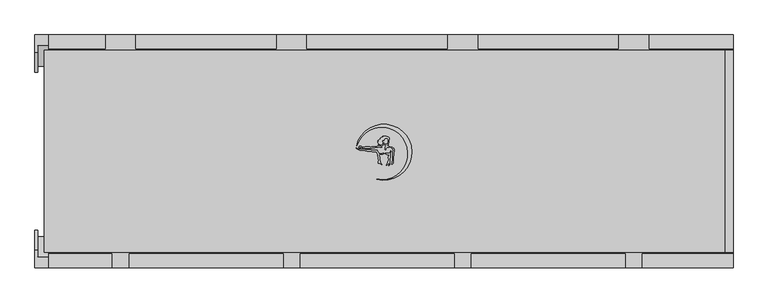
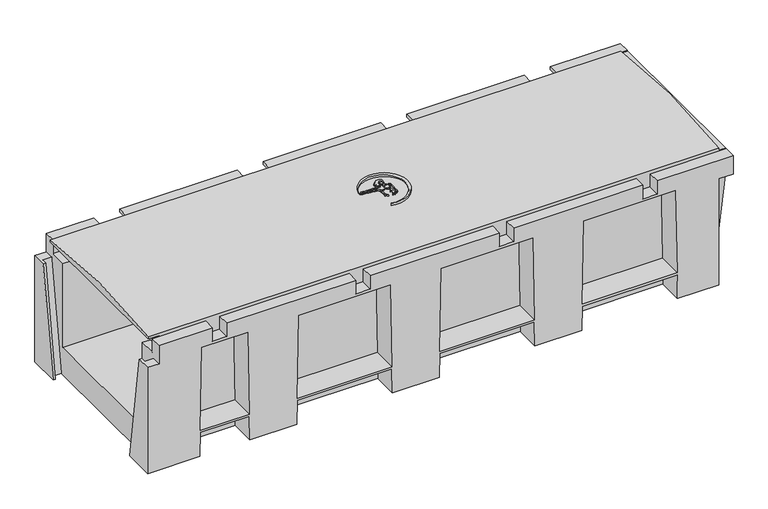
"""IFC4 building model written with IfcOpenShell, lengths in millimetres: cable carrier fitting geometry, Evotray with cover : Evotray type 2."""

from ifc_helpers import new_model, si_unit, point, frame, frame_2d, origin, place, context, project, spatial, polyline, circle_curve, trimmed, segment, composite_curve, outline, extrude, source, transform, mapped, element, save
from ifc_brep_helpers import plane_surface, cylinder_surface, revolved_surface, advanced_brep


def cable_carrier_fitting_28983398(model_context):
    return source(origin(), model_context, "Body", "SolidModel", [
        extrude(outline(composite_curve([segment(polyline([(6.886285, 7.4637328), (8.3119761, 6.6406097), (7.6030447, 6.231308), (5.0381149, 6.231308), (2.5786216, 3.7718147), (2.5786216, 2.1881467), (1.5211076, 1.9047867), (1.1897405, 3.1414657), (1.5119619, 4.3440123), (1.5119619, 6.5708274), (2.9785026, 8.0373681), (2.5786216, 8.7299822), (1.5119619, 9.3458185), (0.65369, 9.841342), (-0.3394336, 10.8344656), (-0.3394336, 12.0845225), (0.4483607, 11.6296893), (1.5119619, 10.566088), (2.5786216, 9.9502518), (4.8913863, 9.9502518), (5.5232849, 10.5821504), (5.5232849, 12.1905551), (5.9291419, 12.89352), (6.1687119, 13.7876074), (6.1687119, 17.8830423), (5.5232849, 18.5284693), (1.5119619, 18.8794146), (0.7637978, 18.4474619), (0.3319493, 17.6994783), (0.1095558, 16.8694948), (-0.1631605, 15.3228433), (-0.7191823, 15.878865), (-1.2848381, 16.4445209), (-2.245373, 16.4445209), (-2.7198124, 15.6227677), (-2.7198124, 14.7978623), (-2.3177653, 14.1014963), (-1.5900706, 13.3738016), (-1.9867099, 11.8935234), (-2.3242099, 10.6339564), (-2.0214025, 8.91665), (-2.8221956, 8.7754486), (-4.5526409, 9.23912), (-5.7993501, 9.8204701), (-6.5526073, 10.1717197), (-8.1520559, 9.8896938), (-7.6844974, 10.6995287), (-6.0276764, 11.3025623)]), True, "CONTINUOUS"), segment(trimmed(circle_curve(frame_2d((-6.593804, 11.0306229)), 0.6280537), [point((-6.0276764, 11.3025623))], [point((-6.7493862, 11.639101))], True, "CARTESIAN"), True, "CONTINUOUS"), segment(polyline([(-6.7493862, 11.639101), (-8.6964013, 11.639101), (-8.1382232, 12.1972792), (-7.2874434, 12.5069377), (-6.4690039, 12.8048253)]), True, "CONTINUOUS"), segment(trimmed(circle_curve(frame_2d((-7.2073288, 12.8048253)), 0.7383249), [point((-6.4690039, 12.8048253))], [point((-7.2073288, 13.5431502))], True, "CARTESIAN"), True, "CONTINUOUS"), segment(polyline([(-7.2073288, 13.5431502), (-8.9150764, 13.5431502), (-9.306598, 14.2212855), (-7.4880059, 14.5419523), (-6.1916679, 15.0137808), (-6.8124206, 15.6345335), (-8.7756401, 15.6345335), (-8.2230577, 16.1871159), (-7.193225, 16.7816901), (-6.5185006, 17.4564145), (-5.7956833, 17.8737332), (-4.8206713, 18.4366567)]), True, "CONTINUOUS"), segment(trimmed(circle_curve(frame_2d((-5.0316567, 18.8020941)), 0.4219708), [point((-4.8206713, 18.4366567))], [point((-5.2426421, 19.1675315))], True, "CARTESIAN"), True, "CONTINUOUS"), segment(polyline([(-5.2426421, 19.1675315), (-4.6252454, 19.7849282), (-3.3225755, 20.2590613), (-2.3275189, 20.8335574), (-1.1959823, 21.0330779), (-1.5498081, 22.0052062), (3.4501919, 22.0052062), (4.4643658, 21.5322892), (5.5862207, 21.2316891), (6.6006668, 20.6459983), (7.7093433, 19.5373219), (7.7093433, 16.9713066), (7.2204261, 16.1244773), (7.2204261, 13.3924413), (6.7313912, 12.3437025), (6.3245893, 11.639101), (6.3245893, 9.7903367), (5.5232849, 9.3277034), (4.6900065, 9.1807739)]), True, "CONTINUOUS"), segment(trimmed(circle_curve(frame_2d((5.742958, 8.8986364)), 1.0900956), [point((4.6900065, 9.1807739))], [point((5.4608205, 7.8456849))], True, "CARTESIAN"), True, "CONTINUOUS"), segment(polyline([(5.4608205, 7.8456849), (6.886285, 7.4637328)]), True, "CONTINUOUS")], self_intersect=False)), frame((0.0, 0.0, 235.0), z_axis=(0.0, 0.0, 1.0), x_axis=(1.0, 0.0, 0.0)), (0.0, 0.0, 1.0), 11.0),
        extrude(outline(polyline([(11.4429943, 4.6087301), (9.5203503, 5.7187691), (10.7095904, 6.0374251), (12.0844458, 5.5370186), (14.2105949, 4.3094858), (14.6222444, 2.7731892), (14.6222444, 0.0), (14.2038635, -2.372756), (13.8777263, -11.712102), (13.8777263, -14.5669989), (13.3180784, -17.7409202), (12.1590543, -18.8999443), (11.2615657, -18.8999443), (11.9364399, -17.0457427), (12.2453954, -15.2935685), (12.7598527, -12.3759364), (12.7598527, -1.1364717), (13.2014873, 1.3681627), (12.6590105, 3.3927139), (11.4429943, 4.6087301)])), frame((0.0, 0.0, 235.0), z_axis=(0.0, 0.0, 1.0), x_axis=(1.0, 0.0, 0.0)), (0.0, 0.0, 1.0), 11.0),
        extrude(outline(composite_curve([segment(polyline([(4.0147453, -2.9992906), (5.9969468, -2.9992906), (7.4652111, -2.740396), (8.7704931, -1.435114), (9.950602, 1.0956376), (10.431554, -0.2257671), (9.8088462, -1.5611682), (9.1382387, -2.9992906), (9.1382387, -8.9574865), (8.7098596, -11.3869452), (8.7098596, -19.8680871), (7.2612009, -21.3167458), (6.6884637, -20.7440086), (7.3671837, -19.0016384), (7.6253291, -17.5376234)]), True, "CONTINUOUS"), segment(trimmed(circle_curve(frame_2d((7.210681, -17.5376234)), 0.414648), [point((7.6253291, -17.5376234))], [point((6.796033, -17.5376234))], True, "CARTESIAN"), True, "CONTINUOUS"), segment(polyline([(6.796033, -17.5376234), (6.0303442, -18.3033121), (4.7634977, -19.813081), (4.1079887, -20.4685901), (3.3156675, -20.0991246), (5.4798874, -16.8905367), (5.785797, -15.1556368), (6.6278549, -13.3498378), (6.8850624, -11.8911416), (6.0965537, -10.5254044), (6.0965537, -7.7588572), (7.4197021, -5.8893005)]), True, "CONTINUOUS"), segment(trimmed(circle_curve(frame_2d((7.0825972, -5.6507199)), 0.4129897), [point((7.4197021, -5.8893005))], [point((6.8440166, -5.3136149))], True, "CARTESIAN"), True, "CONTINUOUS"), segment(polyline([(6.8440166, -5.3136149), (4.8402016, -4.9602882), (3.396305, -4.2869882), (1.5763044, -3.438308), (1.5763044, -2.5693277), (4.0147453, -2.9992906)]), True, "CONTINUOUS")], self_intersect=False)), frame((0.0, 0.0, 235.0), z_axis=(0.0, 0.0, 1.0), x_axis=(1.0, 0.0, 0.0)), (0.0, 0.0, 1.0), 11.0),
        extrude(outline(composite_curve([segment(polyline([(-38.3968506, 3.809904), (-36.6611767, 3.000546), (-32.4747028, 3.000546), (-31.4039817, 3.2874448), (-30.0774441, 3.2874448), (-28.3563353, 3.000546), (-26.3500132, 2.4629536), (-25.1968251, 2.1539578), (-19.5049184, 2.1539578), (-16.8884225, 1.7178031), (-15.5608599, 1.3620838), (-9.9466176, 1.3620838)]), True, "CONTINUOUS"), segment(trimmed(circle_curve(frame_2d((-1.0930514, 4.2676903)), 9.3181642), [point((-9.9466176, 1.3620838))], [point((-6.5923499, -3.2546697))], True, "CARTESIAN"), True, "CONTINUOUS"), segment(polyline([(-6.5923499, -3.2546697), (-3.540565, -3.2546697), (-1.5059865, -3.0766672), (-0.3669825, -2.5455409), (-0.6245024, -3.5066183), (-1.5685967, -4.0516914), (-2.5272836, -4.4006249), (-5.7619887, -4.2876665), (-6.9506832, -4.720316), (-7.3596776, -5.5974072), (-7.284597, -6.4555824), (-6.8057129, -7.2850341), (-6.0851074, -8.0056396), (-6.0851074, -9.7618521), (-6.4504076, -10.7655063), (-6.306141, -12.4144812), (-5.8010487, -14.2995114), (-5.6529296, -15.9925206), (-3.2815945, -18.7204295), (-3.4902715, -19.9038953), (-6.0851074, -17.3090594), (-7.047939, -17.5670493), (-8.4511152, -17.3196315), (-8.1755548, -16.5625356), (-8.1755548, -14.2884801), (-7.999951, -13.2925813), (-8.1755548, -11.2854205), (-8.5512172, -10.2532964), (-8.5512172, -8.4281135), (-8.9975529, -7.4709435), (-8.9975529, -5.093194), (-9.2459932, -4.1660024), (-9.6979635, -3.3831668), (-10.1466753, -2.6059753), (-10.7611176, -1.9915329), (-11.1949689, -1.0611358), (-14.7959071, -0.9353883), (-17.1400591, -0.5446317), (-19.1726524, 0.0), (-22.514272, 0.3512184), (-24.5938851, 0.3512184), (-25.9361197, 0.7108691), (-27.4597147, 1.1191151), (-28.802968, 1.7454844), (-29.7973567, 1.7454844), (-32.4487971, 1.7454844), (-33.5610412, 1.4474595), (-35.4243232, 1.6432983), (-36.913398, 1.8915184), (-38.5867056, 2.6717946), (-39.5626319, 3.6477209), (-40.201715, 4.286804), (-40.201715, 5.0736837), (-38.3968506, 3.809904)]), True, "CONTINUOUS")], self_intersect=False)), frame((0.0, 0.0, 235.0), z_axis=(0.0, 0.0, 1.0), x_axis=(1.0, 0.0, 0.0)), (0.0, 0.0, 1.0), 11.0),
        extrude(outline(composite_curve([segment(polyline([(-35.8946179, 5.3538761), (-34.8713036, 4.7630653), (-36.5989641, 5.2827362), (-36.9291106, 6.2002999), (-36.0907862, 7.0386243), (-33.2179676, 7.0386243), (-32.2335306, 6.640886), (-31.1430419, 6.2002999), (-30.3448483, 5.7394627), (-29.0846182, 5.7394627), (-28.2635931, 6.0348738), (-27.3783409, 6.5459745), (-20.9646359, 6.5459745), (-20.1090613, 6.2002999), (-19.0386593, 6.2002999), (-18.0779391, 6.5459745), (-16.8987824, 6.5459745), (-16.1804433, 6.9607077), (-10.7677881, 6.9607077), (-10.0075074, 7.2342626), (-8.7653494, 7.2342626), (-8.1895809, 7.8100311), (-6.2320175, 7.8100311), (-4.9440164, 7.2896449), (-3.9321, 6.7054147), (-3.1276589, 6.3803994)]), True, "CONTINUOUS"), segment(trimmed(circle_curve(frame_2d((-3.5349913, 6.2158265)), 0.4393221), [point((-3.1276589, 6.3803994))], [point((-3.6995642, 5.8084941))], False, "CARTESIAN"), True, "CONTINUOUS"), segment(polyline([(-3.6995642, 5.8084941), (-4.7152929, 6.2188751), (-6.0269507, 6.2188751), (-7.2973806, 6.4428862), (-8.109405, 6.1507135), (-9.252379, 5.7394627), (-12.5965769, 5.7394627), (-13.3876503, 5.2827362), (-16.9549705, 5.2827362), (-17.8378329, 4.7730154), (-27.8378329, 4.7730154), (-30.448497, 4.5446119), (-34.1370246, 6.0348738), (-36.2877922, 6.0348738), (-35.8946179, 5.3538761)]), True, "CONTINUOUS")], self_intersect=False)), frame((0.0, 0.0, 235.0), z_axis=(0.0, 0.0, 1.0), x_axis=(1.0, 0.0, 0.0)), (0.0, 0.0, 1.0), 11.0),
        extrude(outline(composite_curve([segment(trimmed(circle_curve(frame_2d((-3.3143579, -3.3159585)), 38.3616107), [point((-10.7221947, -40.9555272))], [point((-40.0258932, 7.814017))], True, "CARTESIAN"), True, "CONTINUOUS"), segment(trimmed(circle_curve(frame_2d((-0.1849572, -1.4356248)), 40.900563), [point((-40.0258932, 7.814017))], [point((-10.7221947, -40.9555272))], False, "CARTESIAN"), True, "CONTINUOUS")], self_intersect=False)), frame((0.0, 0.0, 235.0), z_axis=(0.0, 0.0, 1.0), x_axis=(1.0, 0.0, 0.0)), (0.0, 0.0, 1.0), 11.0),
        advanced_brep(
        [(510.0, 147.5, 205.0), (510.0, -147.5, 205.0), (-476.0, -147.5, 205.0), (-476.0, 147.5, 205.0), (-496.0, 147.5, 230.0), (-496.0, -147.5, 230.0), (-496.0, -147.5, 234.0), (-496.0, 147.5, 234.0), (510.0, -147.5, 230.0), (498.0, -147.5, 230.0), (498.0, -147.5, 234.0), (-476.0, -147.5, 230.0), (510.0, 147.5, 230.0), (-476.0, 147.5, 230.0), (498.0, 147.5, 234.0), (498.0, 147.5, 230.0)],
        [
            (0, 1),
            (1, 2),
            (2, 3),
            (3, 0),
            (4, 5),
            (5, 6),
            (6, 7, circle_curve(frame((-496.0, 0.0, -748.995295), z_axis=(-1.0, 0.0, 0.0), x_axis=(0.0, 1.0, 0.0)), 994.0)),
            (7, 4),
            (1, 8),
            (8, 9),
            (9, 10),
            (10, 6),
            (5, 11),
            (11, 2),
            (0, 12),
            (12, 8),
            (3, 13),
            (13, 4),
            (7, 14),
            (14, 15),
            (15, 12),
            (13, 11),
            (15, 9),
            (14, 10, circle_curve(frame((498.0, 0.0, -748.995295), z_axis=(1.0, 0.0, 0.0), x_axis=(0.0, 1.0, 0.0)), 994.0)),
        ],
        [
            plane_surface(frame((-496.0, 147.5, 205.0), z_axis=(0.0, 0.0, -1.0), x_axis=(0.0, 1.0, 0.0))),
            plane_surface(frame((-496.0, 147.5, 246.0), z_axis=(-1.0, 0.0, 0.0), x_axis=(0.0, 0.0, -1.0))),
            plane_surface(frame((-496.0, -147.5, 246.0), z_axis=(0.0, -1.0, 0.0), x_axis=(0.0, 0.0, -1.0))),
            plane_surface(frame((510.0, -147.5, 246.0), z_axis=(1.0, 0.0, 0.0), x_axis=(0.0, 0.0, -1.0))),
            plane_surface(frame((510.0, 147.5, 246.0), z_axis=(0.0, 1.0, 0.0), x_axis=(0.0, 0.0, -1.0))),
            plane_surface(frame((-496.0, 147.5, 230.0), z_axis=(0.0, 0.0, -1.0), x_axis=(-1.0, 0.0, 0.0))),
            plane_surface(frame((-476.0, -147.5, 230.0), z_axis=(-1.0, 0.0, 0.0), x_axis=(0.0, 0.0, -1.0))),
            plane_surface(frame((498.0, 147.5, 230.0), z_axis=(0.0, 0.0, 1.0), x_axis=(0.0, 1.0, 0.0))),
            plane_surface(frame((498.0, 147.5, 246.0), z_axis=(1.0, 0.0, 0.0), x_axis=(0.0, 0.0, -1.0))),
            cylinder_surface(frame((-496.0, 0.0, -748.995295), z_axis=(-1.0, 0.0, 0.0), x_axis=(0.0, 1.0, 0.0)), 994.0),
        ],
        [
            (0, [[1, 2, 3, 4]]),
            (1, [[5, 6, 7, 8]]),
            (2, [[-2, 9, 10, 11, 12, -6, 13, 14]]),
            (3, [[-1, 15, 16, -9]]),
            (4, [[-4, 17, 18, -8, 19, 20, 21, -15]]),
            (5, [[22, -13, -5, -18]]),
            (6, [[-22, -17, -3, -14]]),
            (7, [[23, -10, -16, -21]]),
            (8, [[-23, -20, 24, -11]]),
            (9, [[-7, -12, -24, -19]]),
        ],
    ),
        advanced_brep(
        [(510.0, 150.0, 230.0), (510.0, 170.0, 230.0), (387.5, 170.0, 230.0), (387.5, 150.0, 230.0), (510.0, -170.0, 230.0), (510.0, -150.0, 230.0), (377.5, -150.0, 230.0), (377.5, -170.0, 230.0), (-157.5, 170.0, 230.0), (-362.5, 170.0, 230.0), (-362.5, 150.0, 230.0), (-157.5, 150.0, 230.0), (92.5, 170.0, 230.0), (-112.5, 170.0, 230.0), (-112.5, 150.0, 230.0), (92.5, 150.0, 230.0), (342.5, 170.0, 230.0), (137.5, 170.0, 230.0), (137.5, 150.0, 230.0), (342.5, 150.0, 230.0), (-490.0, 150.0, 230.0), (-407.5, 150.0, 230.0), (-407.5, 170.0, 230.0), (-490.0, 170.0, 230.0), (-490.0, -150.0, 230.0), (-490.0, -170.0, 230.0), (-397.5, -170.0, 230.0), (-397.5, -150.0, 230.0), (-147.5, -150.0, 230.0), (-372.5, -150.0, 230.0), (-372.5, -170.0, 230.0), (-147.5, -170.0, 230.0), (102.5, -150.0, 230.0), (-122.5, -150.0, 230.0), (-122.5, -170.0, 230.0), (102.5, -170.0, 230.0), (352.5, -150.0, 230.0), (127.5, -150.0, 230.0), (127.5, -170.0, 230.0), (352.5, -170.0, 230.0), (-510.0, 115.4, 0.0), (-510.0, 170.0, 0.0), (-381.1, 170.0, 0.0), (-381.1, 126.0, 0.0), (-214.1, 126.0, 0.0), (-214.1, 170.0, 0.0), (-132.8, 170.0, 0.0), (-132.8, 126.0, 0.0), (34.2, 126.0, 0.0), (34.2, 170.0, 0.0), (115.5, 170.0, 0.0), (115.5, 126.0, 0.0), (282.5, 126.0, 0.0), (282.5, 170.0, 0.0), (363.8, 170.0, 0.0), (363.8, 126.0, 0.0), (450.8, 126.0, 0.0), (450.8, 170.0, 0.0), (485.0, 170.0, 0.0), (485.0, -170.0, 0.0), (413.1, -170.0, 0.0), (413.1, -126.0, 0.0), (246.1, -126.0, 0.0), (246.1, -170.0, 0.0), (164.8, -170.0, 0.0), (164.8, -126.0, 0.0), (-2.2, -126.0, 0.0), (-2.2, -170.0, 0.0), (-83.5, -170.0, 0.0), (-83.5, -126.0, 0.0), (-250.5, -126.0, 0.0), (-250.5, -170.0, 0.0), (-331.8, -170.0, 0.0), (-331.8, -126.0, 0.0), (-418.8, -126.0, 0.0), (-418.8, -170.0, 0.0), (-510.0, -170.0, 0.0), (-510.0, -115.5, 0.0), (-506.0, -115.5, 0.0), (-506.0, -124.6, 0.0), (-490.0, -124.6, 0.0), (-490.0, 124.6, 0.0), (-506.0, 124.6, 0.0), (-506.0, 115.4, 0.0), (-451.0, -97.5, 0.0), (-429.0, -97.5, 0.0), (-206.0, 97.5, 0.0), (-184.0, 97.5, 0.0), (449.0, 97.5, 0.0), (471.0, 97.5, 0.0), (204.0, -97.5, 0.0), (226.0, -97.5, 0.0), (497.0, 115.4, 0.0), (510.0, 115.4, 0.0), (510.0, -115.4, 0.0), (497.0, -115.4, 0.0), (510.0, 170.0, 196.0), (485.0, 170.0, 196.0), (450.0, 170.0, 44.0), (364.6, 170.0, 44.0), (281.7, 170.0, 44.0), (116.3, 170.0, 44.0), (33.4, 170.0, 44.0), (-132.0, 170.0, 44.0), (-214.9, 170.0, 44.0), (-380.3, 170.0, 44.0), (-510.0, 170.0, 196.0), (-490.0, 170.0, 196.0), (-407.5, 170.0, 205.0), (-337.5, 170.0, 205.0), (-337.5, 170.0, 225.0), (-362.5, 170.0, 225.0), (-157.5, 170.0, 205.0), (-87.5, 170.0, 205.0), (-87.5, 170.0, 225.0), (-112.5, 170.0, 225.0), (92.5, 170.0, 205.0), (162.5, 170.0, 205.0), (162.5, 170.0, 225.0), (137.5, 170.0, 225.0), (342.5, 170.0, 205.0), (412.5, 170.0, 205.0), (412.5, 170.0, 225.0), (387.5, 170.0, 225.0), (447.3, 170.0, 200.0), (367.3, 170.0, 200.0), (364.6, 170.0, 48.0), (450.0, 170.0, 48.0), (279.0, 170.0, 200.0), (119.0, 170.0, 200.0), (116.3, 170.0, 48.0), (281.7, 170.0, 48.0), (30.7, 170.0, 200.0), (-129.3, 170.0, 200.0), (-132.0, 170.0, 48.0), (33.4, 170.0, 48.0), (-217.6, 170.0, 200.0), (-377.6, 170.0, 200.0), (-380.3, 170.0, 48.0), (-214.9, 170.0, 48.0), (-510.0, 144.8852174, 196.0), (-510.0, -170.0, 196.0), (-510.0, -144.9, 196.0), (510.0, -170.0, 196.0), (377.5, -170.0, 205.0), (352.5, -170.0, 205.0), (127.5, -170.0, 205.0), (102.5, -170.0, 205.0), (-122.5, -170.0, 205.0), (-147.5, -170.0, 205.0), (-372.5, -170.0, 205.0), (-397.5, -170.0, 205.0), (-490.0, -170.0, 196.0), (-418.0, -170.0, 44.0), (-332.6, -170.0, 44.0), (-249.7, -170.0, 44.0), (-84.3, -170.0, 44.0), (-1.4, -170.0, 44.0), (164.0, -170.0, 44.0), (246.9, -170.0, 44.0), (412.3, -170.0, 44.0), (485.0, -170.0, 196.0), (-415.3, -170.0, 200.0), (-335.3, -170.0, 200.0), (-332.6, -170.0, 48.0), (-418.0, -170.0, 48.0), (-247.0, -170.0, 200.0), (-87.0, -170.0, 200.0), (-84.3, -170.0, 48.0), (-249.7, -170.0, 48.0), (1.3, -170.0, 200.0), (161.3, -170.0, 200.0), (164.0, -170.0, 48.0), (-1.4, -170.0, 48.0), (249.6, -170.0, 200.0), (409.6, -170.0, 200.0), (412.3, -170.0, 48.0), (246.9, -170.0, 48.0), (510.0, 150.0, 205.0), (510.0, 120.0, 205.0), (510.0, 120.0, 50.0), (510.0, -120.0, 50.0), (510.0, -120.0, 205.0), (510.0, -150.0, 205.0), (510.0, -150.0, 196.0), (510.0, 150.0, 196.0), (-506.0, 144.8852174, 196.0), (-506.0, -144.9, 196.0), (-490.0, 154.0, 196.0), (-506.0, 154.0, 196.0), (-506.0, -154.0852174, 196.0), (-490.0, -154.0852174, 196.0), (-490.0, -150.0, 205.0), (-490.0, -147.5, 205.0), (-490.0, -120.0, 205.0), (-490.0, -120.0, 50.0), (-490.0, 120.0, 50.0), (-490.0, 120.0, 205.0), (-490.0, 147.5, 205.0), (-490.0, 150.0, 205.0), (412.5, 150.0, 205.0), (342.5, 150.0, 205.0), (162.5, 150.0, 205.0), (92.5, 150.0, 205.0), (-87.5, 150.0, 205.0), (-157.5, 150.0, 205.0), (-337.5, 150.0, 205.0), (-407.5, 150.0, 205.0), (-476.0, 120.0, 205.0), (-476.0, -120.0, 205.0), (-397.5, -150.0, 205.0), (-372.5, -150.0, 205.0), (-147.5, -150.0, 205.0), (-122.5, -150.0, 205.0), (102.5, -150.0, 205.0), (127.5, -150.0, 205.0), (352.5, -150.0, 205.0), (377.5, -150.0, 205.0), (-362.5, 150.0, 225.0), (-337.5, 150.0, 225.0), (-112.5, 150.0, 225.0), (-87.5, 150.0, 225.0), (137.5, 150.0, 225.0), (162.5, 150.0, 225.0), (387.5, 150.0, 225.0), (412.5, 150.0, 225.0), (-429.0, -97.5, 50.0), (-451.0, -97.5, 50.0), (-184.0, 97.5, 50.0), (-206.0, 97.5, 50.0), (471.0, 97.5, 50.0), (449.0, 97.5, 50.0), (226.0, -97.5, 50.0), (204.0, -97.5, 50.0), (497.0, 150.0, 196.0), (497.0, 147.6, 196.0), (485.0, 147.6, 196.0), (497.0, -150.0, 196.0), (485.0, -147.6, 196.0), (497.0, -147.6, 196.0), (497.0, -118.2959184, 30.0), (497.0, 118.2959184, 30.0), (485.0, -118.2959184, 30.0), (485.0, 118.2959184, 30.0), (-418.0, -126.0, 44.0), (-332.6, -126.0, 44.0), (-335.3, -126.0, 200.0), (-415.3, -126.0, 200.0), (-332.6, -126.0, 48.0), (-418.0, -126.0, 48.0), (450.0, 126.0, 44.0), (364.6, 126.0, 44.0), (447.3, 126.0, 200.0), (367.3, 126.0, 200.0), (364.6, 126.0, 48.0), (450.0, 126.0, 48.0), (-84.3, -126.0, 44.0), (-249.7, -126.0, 44.0), (-87.0, -126.0, 200.0), (-247.0, -126.0, 200.0), (-84.3, -126.0, 48.0), (-249.7, -126.0, 48.0), (164.0, -126.0, 44.0), (-1.4, -126.0, 44.0), (161.3, -126.0, 200.0), (1.3, -126.0, 200.0), (164.0, -126.0, 48.0), (-1.4, -126.0, 48.0), (412.3, -126.0, 44.0), (246.9, -126.0, 44.0), (409.6, -126.0, 200.0), (249.6, -126.0, 200.0), (412.3, -126.0, 48.0), (246.9, -126.0, 48.0), (281.7, 126.0, 44.0), (116.3, 126.0, 44.0), (279.0, 126.0, 200.0), (119.0, 126.0, 200.0), (116.3, 126.0, 48.0), (281.7, 126.0, 48.0), (33.4, 126.0, 44.0), (-132.0, 126.0, 44.0), (30.7, 126.0, 200.0), (-129.3, 126.0, 200.0), (-132.0, 126.0, 48.0), (33.4, 126.0, 48.0), (-214.9, 126.0, 44.0), (-380.3, 126.0, 44.0), (-217.6, 126.0, 200.0), (-377.6, 126.0, 200.0), (-380.3, 126.0, 48.0), (-214.9, 126.0, 48.0)],
        [
            (0, 1),
            (1, 2),
            (2, 3),
            (3, 0),
            (4, 5),
            (5, 6),
            (6, 7),
            (7, 4),
            (8, 9),
            (9, 10),
            (10, 11),
            (11, 8),
            (12, 13),
            (13, 14),
            (14, 15),
            (15, 12),
            (16, 17),
            (17, 18),
            (18, 19),
            (19, 16),
            (20, 21),
            (21, 22),
            (22, 23),
            (23, 20),
            (24, 25),
            (25, 26),
            (26, 27),
            (27, 24),
            (28, 29),
            (29, 30),
            (30, 31),
            (31, 28),
            (32, 33),
            (33, 34),
            (34, 35),
            (35, 32),
            (36, 37),
            (37, 38),
            (38, 39),
            (39, 36),
            (40, 41),
            (41, 42),
            (42, 43),
            (43, 44),
            (44, 45),
            (45, 46),
            (46, 47),
            (47, 48),
            (48, 49),
            (49, 50),
            (50, 51),
            (51, 52),
            (52, 53),
            (53, 54),
            (54, 55),
            (55, 56),
            (56, 57),
            (57, 58),
            (58, 59),
            (59, 60),
            (60, 61),
            (61, 62),
            (62, 63),
            (63, 64),
            (64, 65),
            (65, 66),
            (66, 67),
            (67, 68),
            (68, 69),
            (69, 70),
            (70, 71),
            (71, 72),
            (72, 73),
            (73, 74),
            (74, 75),
            (75, 76),
            (76, 77),
            (77, 78),
            (78, 79),
            (79, 80),
            (80, 81),
            (81, 82),
            (82, 83),
            (83, 40),
            (84, 85, circle_curve(frame((-440.0, -97.5, 0.0), z_axis=(0.0, 0.0, 1.0), x_axis=(1.0, 0.0, 0.0)), 11.0)),
            (85, 84, circle_curve(frame((-440.0, -97.5, 0.0), z_axis=(0.0, 0.0, 1.0), x_axis=(1.0, 0.0, 0.0)), 11.0)),
            (86, 87, circle_curve(frame((-195.0, 97.5, 0.0), z_axis=(0.0, 0.0, 1.0), x_axis=(1.0, 0.0, 0.0)), 11.0)),
            (87, 86, circle_curve(frame((-195.0, 97.5, 0.0), z_axis=(0.0, 0.0, 1.0), x_axis=(1.0, 0.0, 0.0)), 11.0)),
            (88, 89, circle_curve(frame((460.0, 97.5, 0.0), z_axis=(0.0, 0.0, 1.0), x_axis=(1.0, 0.0, 0.0)), 11.0)),
            (89, 88, circle_curve(frame((460.0, 97.5, 0.0), z_axis=(0.0, 0.0, 1.0), x_axis=(1.0, 0.0, 0.0)), 11.0)),
            (90, 91, circle_curve(frame((215.0, -97.5, 0.0), z_axis=(0.0, 0.0, 1.0), x_axis=(1.0, 0.0, 0.0)), 11.0)),
            (91, 90, circle_curve(frame((215.0, -97.5, 0.0), z_axis=(0.0, 0.0, 1.0), x_axis=(1.0, 0.0, 0.0)), 11.0)),
            (92, 93),
            (93, 94),
            (94, 95),
            (95, 92),
            (1, 96),
            (96, 97),
            (97, 58),
            (57, 98),
            (98, 99),
            (99, 54),
            (53, 100),
            (100, 101),
            (101, 50),
            (49, 102),
            (102, 103),
            (103, 46),
            (45, 104),
            (104, 105),
            (105, 42),
            (41, 106),
            (106, 107),
            (107, 23),
            (22, 108),
            (108, 109),
            (109, 110),
            (110, 111),
            (111, 9),
            (8, 112),
            (112, 113),
            (113, 114),
            (114, 115),
            (115, 13),
            (12, 116),
            (116, 117),
            (117, 118),
            (118, 119),
            (119, 17),
            (16, 120),
            (120, 121),
            (121, 122),
            (122, 123),
            (123, 2),
            (124, 125),
            (125, 126),
            (126, 127),
            (127, 124),
            (128, 129),
            (129, 130),
            (130, 131),
            (131, 128),
            (132, 133),
            (133, 134),
            (134, 135),
            (135, 132),
            (136, 137),
            (137, 138),
            (138, 139),
            (139, 136),
            (40, 140),
            (140, 106),
            (76, 141),
            (141, 142),
            (142, 77),
            (143, 4),
            (7, 144),
            (144, 145),
            (145, 39),
            (38, 146),
            (146, 147),
            (147, 35),
            (34, 148),
            (148, 149),
            (149, 31),
            (30, 150),
            (150, 151),
            (151, 26),
            (25, 152),
            (152, 141),
            (75, 153),
            (153, 154),
            (154, 72),
            (71, 155),
            (155, 156),
            (156, 68),
            (67, 157),
            (157, 158),
            (158, 64),
            (63, 159),
            (159, 160),
            (160, 60),
            (59, 161),
            (161, 143),
            (162, 163),
            (163, 164),
            (164, 165),
            (165, 162),
            (166, 167),
            (167, 168),
            (168, 169),
            (169, 166),
            (170, 171),
            (171, 172),
            (172, 173),
            (173, 170),
            (174, 175),
            (175, 176),
            (176, 177),
            (177, 174),
            (0, 178),
            (178, 179),
            (179, 180),
            (180, 181),
            (181, 182),
            (182, 183),
            (183, 5),
            (143, 184),
            (184, 94),
            (93, 185),
            (185, 96),
            (83, 186),
            (186, 140),
            (142, 187),
            (187, 78),
            (81, 188),
            (188, 189),
            (189, 82),
            (187, 190),
            (190, 79),
            (189, 186),
            (190, 191),
            (191, 80),
            (191, 152),
            (24, 192),
            (192, 193),
            (193, 194),
            (194, 195),
            (195, 196),
            (196, 197),
            (197, 198),
            (198, 199),
            (199, 20),
            (107, 188),
            (178, 200),
            (200, 121),
            (120, 201),
            (201, 202),
            (202, 117),
            (116, 203),
            (203, 204),
            (204, 113),
            (112, 205),
            (205, 206),
            (206, 109),
            (108, 207),
            (207, 199),
            (197, 208),
            (208, 179),
            (182, 209),
            (209, 194),
            (192, 210),
            (210, 151),
            (150, 211),
            (211, 212),
            (212, 149),
            (148, 213),
            (213, 214),
            (214, 147),
            (146, 215),
            (215, 216),
            (216, 145),
            (144, 217),
            (217, 183),
            (10, 218),
            (218, 219),
            (219, 206),
            (205, 11),
            (14, 220),
            (220, 221),
            (221, 204),
            (203, 15),
            (18, 222),
            (222, 223),
            (223, 202),
            (201, 19),
            (3, 224),
            (224, 225),
            (225, 200),
            (207, 21),
            (28, 212),
            (211, 29),
            (32, 214),
            (213, 33),
            (36, 216),
            (215, 37),
            (217, 6),
            (27, 210),
            (180, 196),
            (195, 181),
            (226, 227, circle_curve(frame((-440.0, -97.5, 50.0), z_axis=(0.0, 0.0, -1.0), x_axis=(1.0, 0.0, 0.0)), 11.0)),
            (227, 226, circle_curve(frame((-440.0, -97.5, 50.0), z_axis=(0.0, 0.0, -1.0), x_axis=(1.0, 0.0, 0.0)), 11.0)),
            (228, 229, circle_curve(frame((-195.0, 97.5, 50.0), z_axis=(0.0, 0.0, -1.0), x_axis=(1.0, 0.0, 0.0)), 11.0)),
            (229, 228, circle_curve(frame((-195.0, 97.5, 50.0), z_axis=(0.0, 0.0, -1.0), x_axis=(1.0, 0.0, 0.0)), 11.0)),
            (230, 231, circle_curve(frame((460.0, 97.5, 50.0), z_axis=(0.0, 0.0, -1.0), x_axis=(1.0, 0.0, 0.0)), 11.0)),
            (231, 230, circle_curve(frame((460.0, 97.5, 50.0), z_axis=(0.0, 0.0, -1.0), x_axis=(1.0, 0.0, 0.0)), 11.0)),
            (232, 233, circle_curve(frame((215.0, -97.5, 50.0), z_axis=(0.0, 0.0, -1.0), x_axis=(1.0, 0.0, 0.0)), 11.0)),
            (233, 232, circle_curve(frame((215.0, -97.5, 50.0), z_axis=(0.0, 0.0, -1.0), x_axis=(1.0, 0.0, 0.0)), 11.0)),
            (185, 234),
            (234, 235),
            (235, 236),
            (236, 97),
            (92, 234),
            (237, 184),
            (161, 238),
            (238, 239),
            (239, 237),
            (237, 95),
            (239, 240),
            (240, 241),
            (241, 235),
            (238, 242),
            (242, 240),
            (236, 243),
            (243, 242),
            (241, 243),
            (226, 85),
            (84, 227),
            (228, 87),
            (86, 229),
            (230, 89),
            (88, 231),
            (232, 91),
            (90, 233),
            (111, 218),
            (115, 220),
            (119, 222),
            (123, 224),
            (110, 219),
            (114, 221),
            (118, 223),
            (122, 225),
            (153, 244),
            (244, 245),
            (245, 154),
            (245, 73),
            (244, 74),
            (246, 163),
            (162, 247),
            (247, 246),
            (248, 249),
            (249, 165),
            (164, 248),
            (247, 249),
            (248, 246),
            (250, 251),
            (251, 99),
            (98, 250),
            (56, 250),
            (251, 55),
            (124, 252),
            (252, 253),
            (253, 125),
            (126, 254),
            (254, 255),
            (255, 127),
            (253, 254),
            (252, 255),
            (256, 156),
            (155, 257),
            (257, 256),
            (257, 70),
            (69, 256),
            (258, 167),
            (166, 259),
            (259, 258),
            (260, 261),
            (261, 169),
            (168, 260),
            (259, 261),
            (260, 258),
            (262, 158),
            (157, 263),
            (263, 262),
            (263, 66),
            (65, 262),
            (264, 171),
            (170, 265),
            (265, 264),
            (266, 267),
            (267, 173),
            (172, 266),
            (265, 267),
            (266, 264),
            (268, 160),
            (159, 269),
            (269, 268),
            (269, 62),
            (61, 268),
            (270, 175),
            (174, 271),
            (271, 270),
            (272, 273),
            (273, 177),
            (176, 272),
            (271, 273),
            (272, 270),
            (100, 274),
            (274, 275),
            (275, 101),
            (275, 51),
            (274, 52),
            (128, 276),
            (276, 277),
            (277, 129),
            (130, 278),
            (278, 279),
            (279, 131),
            (277, 278),
            (276, 279),
            (102, 280),
            (280, 281),
            (281, 103),
            (281, 47),
            (280, 48),
            (132, 282),
            (282, 283),
            (283, 133),
            (134, 284),
            (284, 285),
            (285, 135),
            (283, 284),
            (282, 285),
            (104, 286),
            (286, 287),
            (287, 105),
            (287, 43),
            (286, 44),
            (136, 288),
            (288, 289),
            (289, 137),
            (138, 290),
            (290, 291),
            (291, 139),
            (289, 290),
            (288, 291),
        ],
        [
            plane_surface(frame((-510.0, 170.0, 230.0), z_axis=(0.0, 0.0, 1.0), x_axis=(-1.0, 0.0, 0.0))),
            plane_surface(frame((-510.0, 170.0, 0.0), z_axis=(0.0, 0.0, -1.0), x_axis=(1.0, 0.0, 0.0))),
            plane_surface(frame((510.0, 170.0, 230.0), z_axis=(0.0, 1.0, 0.0), x_axis=(0.0, 0.0, -1.0))),
            plane_surface(frame((-510.0, 170.0, 230.0), z_axis=(-1.0, 0.0, 0.0), x_axis=(0.0, 0.0, -1.0))),
            plane_surface(frame((-510.0, -170.0, 230.0), z_axis=(0.0, -1.0, 0.0), x_axis=(0.0, 0.0, -1.0))),
            plane_surface(frame((510.0, -170.0, 230.0), z_axis=(1.0, 0.0, 0.0), x_axis=(0.0, 0.0, -1.0))),
            plane_surface(frame((-508.0, 115.4, 0.0), z_axis=(0.0, -0.9888731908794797, 0.14876092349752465), x_axis=(-1.0, 0.0, 0.0))),
            plane_surface(frame((-508.0, -115.5, 0.0), z_axis=(0.0, 0.9889363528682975, 0.14834045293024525), x_axis=(1.0, 0.0, 0.0))),
            plane_surface(frame((-498.0, 124.6, 0.0), z_axis=(0.0, -0.9889363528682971, 0.14834045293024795), x_axis=(-1.0, 0.0, 0.0))),
            plane_surface(frame((-506.0, 0.0, 0.0), z_axis=(1.0, 0.0, 0.0), x_axis=(0.0, -1.0, 0.0))),
            plane_surface(frame((-498.0, -124.6, 0.0), z_axis=(0.0, 0.98887319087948, 0.14876092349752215), x_axis=(1.0, 0.0, 0.0))),
            plane_surface(frame((-490.0, 0.0, 0.0), z_axis=(-1.0, 0.0, 0.0), x_axis=(0.0, 1.0, 0.0))),
            plane_surface(frame((-490.0, 150.0, 205.0), z_axis=(0.0, 0.0, 1.0), x_axis=(1.0, 0.0, 0.0))),
            plane_surface(frame((510.0, 150.0, 230.0), z_axis=(0.0, -1.0, 0.0), x_axis=(0.0, 0.0, -1.0))),
            plane_surface(frame((-490.0, -150.0, 230.0), z_axis=(0.0, 1.0, 0.0), x_axis=(0.0, 0.0, -1.0))),
            plane_surface(frame((-490.0, 120.0, 50.0), z_axis=(0.0, 0.0, 1.0), x_axis=(1.0, 0.0, 0.0))),
            plane_surface(frame((510.0, 120.0, 205.0), z_axis=(0.0, -1.0, 0.0), x_axis=(0.0, 0.0, -1.0))),
            plane_surface(frame((-490.0, -120.0, 205.0), z_axis=(0.0, 1.0, 0.0), x_axis=(0.0, 0.0, -1.0))),
            plane_surface(frame((503.5, 160.0, 196.0), z_axis=(0.0, 0.0, -1.0), x_axis=(0.0, -1.0, 0.0))),
            plane_surface(frame((503.5, 115.4, 0.0), z_axis=(0.0, 0.9847734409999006, -0.17384265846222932), x_axis=(1.0, 0.0, 0.0))),
            plane_surface(frame((503.5, -160.0, 196.0), z_axis=(0.0, 0.0, -1.0), x_axis=(1.0, 0.0, 0.0))),
            plane_surface(frame((503.5, -115.4, 0.0), z_axis=(0.0, -0.9847734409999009, -0.1738426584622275), x_axis=(-1.0, 0.0, 0.0))),
            plane_surface(frame((497.0, -141.5, 0.0), z_axis=(-1.0, 0.0, 0.0), x_axis=(0.0, 1.0, 0.0))),
            plane_surface(frame((491.0, -113.0, 0.0), z_axis=(0.0, -0.9847734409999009, -0.1738426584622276), x_axis=(-1.0, 0.0, 0.0))),
            plane_surface(frame((485.0, -141.5, 0.0), z_axis=(1.0, 0.0, 0.0), x_axis=(0.0, -1.0, 0.0))),
            plane_surface(frame((491.0, 113.0, 0.0), z_axis=(0.0, 0.9847734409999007, -0.17384265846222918), x_axis=(1.0, 0.0, 0.0))),
            plane_surface(frame((491.0, 0.0, 30.0), z_axis=(0.0, 0.0, -1.0), x_axis=(-1.0, 0.0, 0.0))),
            revolved_surface(polyline([(-429.0, -97.5, 50.0), (-429.0, -97.5, 0.0)]), (-440.0, -97.5, 0.0), (0.0, 0.0, 1.0)),
            revolved_surface(polyline([(-184.0, 97.5, 50.0), (-184.0, 97.5, 0.0)]), (-195.0, 97.5, 0.0), (0.0, 0.0, 1.0)),
            revolved_surface(polyline([(471.0, 97.5, 50.0), (471.0, 97.5, 0.0)]), (460.0, 97.5, 0.0), (0.0, 0.0, 1.0)),
            revolved_surface(polyline([(226.0, -97.5, 50.0), (226.0, -97.5, 0.0)]), (215.0, -97.5, 0.0), (0.0, 0.0, 1.0)),
            plane_surface(frame((-407.5, 170.0, 230.0), z_axis=(1.0, 0.0, 0.0), x_axis=(0.0, 0.0, -1.0))),
            plane_surface(frame((-362.5, 150.0, 230.0), z_axis=(-1.0, 0.0, 0.0), x_axis=(0.0, 0.0, -1.0))),
            plane_surface(frame((-157.5, 170.0, 230.0), z_axis=(1.0, 0.0, 0.0), x_axis=(0.0, 0.0, -1.0))),
            plane_surface(frame((-112.5, 150.0, 230.0), z_axis=(-1.0, 0.0, 0.0), x_axis=(0.0, 0.0, -1.0))),
            plane_surface(frame((92.5, 170.0, 230.0), z_axis=(1.0, 0.0, 0.0), x_axis=(0.0, 0.0, -1.0))),
            plane_surface(frame((137.5, 150.0, 230.0), z_axis=(-1.0, 0.0, 0.0), x_axis=(0.0, 0.0, -1.0))),
            plane_surface(frame((342.5, 170.0, 230.0), z_axis=(1.0, 0.0, 0.0), x_axis=(0.0, 0.0, -1.0))),
            plane_surface(frame((387.5, 150.0, 230.0), z_axis=(-1.0, 0.0, 0.0), x_axis=(0.0, 0.0, -1.0))),
            plane_surface(frame((-510.0, 170.0, 196.0), z_axis=(0.0, 0.0, 1.0), x_axis=(1.0, 0.0, 0.0))),
            plane_surface(frame((-362.5, 170.0, 225.0), z_axis=(0.0, 0.0, -1.0), x_axis=(-1.0, 0.0, 0.0))),
            plane_surface(frame((-337.5, 150.0, 225.0), z_axis=(-1.0, 0.0, 0.0), x_axis=(0.0, 0.0, -1.0))),
            plane_surface(frame((-87.5, 150.0, 225.0), z_axis=(-1.0, 0.0, 0.0), x_axis=(0.0, 0.0, -1.0))),
            plane_surface(frame((162.5, 150.0, 225.0), z_axis=(-1.0, 0.0, 0.0), x_axis=(0.0, 0.0, -1.0))),
            plane_surface(frame((412.5, 150.0, 225.0), z_axis=(-1.0, 0.0, 0.0), x_axis=(0.0, 0.0, -1.0))),
            plane_surface(frame((-397.5, -150.0, 230.0), z_axis=(1.0, 0.0, 0.0), x_axis=(0.0, 0.0, -1.0))),
            plane_surface(frame((-372.5, -170.0, 230.0), z_axis=(-1.0, 0.0, 0.0), x_axis=(0.0, 0.0, -1.0))),
            plane_surface(frame((-147.5, -150.0, 230.0), z_axis=(1.0, 0.0, 0.0), x_axis=(0.0, 0.0, -1.0))),
            plane_surface(frame((-122.5, -170.0, 230.0), z_axis=(-1.0, 0.0, 0.0), x_axis=(0.0, 0.0, -1.0))),
            plane_surface(frame((102.5, -150.0, 230.0), z_axis=(1.0, 0.0, 0.0), x_axis=(0.0, 0.0, -1.0))),
            plane_surface(frame((127.5, -170.0, 230.0), z_axis=(-1.0, 0.0, 0.0), x_axis=(0.0, 0.0, -1.0))),
            plane_surface(frame((352.5, -150.0, 230.0), z_axis=(1.0, 0.0, 0.0), x_axis=(0.0, 0.0, -1.0))),
            plane_surface(frame((377.5, -170.0, 230.0), z_axis=(-1.0, 0.0, 0.0), x_axis=(0.0, 0.0, -1.0))),
            plane_surface(frame((-375.3, -148.0, 44.0), z_axis=(0.0, 0.0, -1.0), x_axis=(-1.0, 0.0, 0.0))),
            plane_surface(frame((-331.8, -148.0, 0.0), z_axis=(-0.9998347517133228, 0.0, -0.018178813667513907), x_axis=(0.0, 1.0, 0.0))),
            plane_surface(frame((-375.3, -126.0, 0.0), z_axis=(0.0, -1.0, 0.0), x_axis=(-1.0, 0.0, 0.0))),
            plane_surface(frame((-418.8, -148.0, 0.0), z_axis=(0.9998347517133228, 0.0, -0.018178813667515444), x_axis=(0.0, -1.0, 0.0))),
            plane_surface(frame((-375.3, -148.0, 200.0), z_axis=(0.0, 0.0, -1.0), x_axis=(-1.0, 0.0, 0.0))),
            plane_surface(frame((-375.3, -148.0, 48.0), z_axis=(0.0, 0.0, 1.0), x_axis=(-1.0, 0.0, 0.0))),
            plane_surface(frame((-375.3, -126.0, 48.0), z_axis=(0.0, -1.0, 0.0), x_axis=(-1.0, 0.0, 0.0))),
            plane_surface(frame((-418.0, -148.0, 48.0), z_axis=(0.9998422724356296, 0.0, -0.017760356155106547), x_axis=(0.0, -1.0, 0.0))),
            plane_surface(frame((-332.6, -148.0, 48.0), z_axis=(-0.9998422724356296, 0.0, -0.017760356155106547), x_axis=(0.0, 1.0, 0.0))),
            plane_surface(frame((407.3, 148.0, 44.0), z_axis=(0.0, 0.0, -1.0), x_axis=(-1.0, 0.0, 0.0))),
            plane_surface(frame((450.8, 148.0, 0.0), z_axis=(-0.9998347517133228, 0.0, -0.018178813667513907), x_axis=(0.0, 1.0, 0.0))),
            plane_surface(frame((363.8, 148.0, 0.0), z_axis=(0.9998347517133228, 0.0, -0.018178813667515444), x_axis=(0.0, -1.0, 0.0))),
            plane_surface(frame((407.3, 126.0, 0.0), z_axis=(0.0, 1.0, 0.0), x_axis=(1.0, 0.0, 0.0))),
            plane_surface(frame((407.3, 148.0, 200.0), z_axis=(0.0, 0.0, -1.0), x_axis=(-1.0, 0.0, 0.0))),
            plane_surface(frame((407.3, 148.0, 48.0), z_axis=(0.0, 0.0, 1.0), x_axis=(-1.0, 0.0, 0.0))),
            plane_surface(frame((364.6, 148.0, 48.0), z_axis=(0.9998422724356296, 0.0, -0.017760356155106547), x_axis=(0.0, -1.0, 0.0))),
            plane_surface(frame((407.3, 126.0, 48.0), z_axis=(0.0, 1.0, 0.0), x_axis=(1.0, 0.0, 0.0))),
            plane_surface(frame((450.0, 148.0, 48.0), z_axis=(-0.9998422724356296, 0.0, -0.017760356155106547), x_axis=(0.0, 1.0, 0.0))),
            plane_surface(frame((-167.0, -148.0, 44.0), z_axis=(0.0, 0.0, -1.0), x_axis=(-1.0, 0.0, 0.0))),
            plane_surface(frame((-167.0, -126.0, 0.0), z_axis=(0.0, -1.0, 0.0), x_axis=(-1.0, 0.0, 0.0))),
            plane_surface(frame((-250.5, -148.0, 0.0), z_axis=(0.9998347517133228, 0.0, -0.018178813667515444), x_axis=(0.0, -1.0, 0.0))),
            plane_surface(frame((-83.5, -148.0, 0.0), z_axis=(-0.9998347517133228, 0.0, -0.01817881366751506), x_axis=(0.0, 1.0, 0.0))),
            plane_surface(frame((-167.0, -148.0, 200.0), z_axis=(0.0, 0.0, -1.0), x_axis=(-1.0, 0.0, 0.0))),
            plane_surface(frame((-167.0, -148.0, 48.0), z_axis=(0.0, 0.0, 1.0), x_axis=(-1.0, 0.0, 0.0))),
            plane_surface(frame((-167.0, -126.0, 48.0), z_axis=(0.0, -1.0, 0.0), x_axis=(-1.0, 0.0, 0.0))),
            plane_surface(frame((-249.7, -148.0, 48.0), z_axis=(0.9998422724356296, 0.0, -0.017760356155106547), x_axis=(0.0, -1.0, 0.0))),
            plane_surface(frame((-84.3, -148.0, 48.0), z_axis=(-0.9998422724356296, 0.0, -0.017760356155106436), x_axis=(0.0, 1.0, 0.0))),
            plane_surface(frame((81.3, -148.0, 44.0), z_axis=(0.0, 0.0, -1.0), x_axis=(-1.0, 0.0, 0.0))),
            plane_surface(frame((81.3, -126.0, 0.0), z_axis=(0.0, -1.0, 0.0), x_axis=(-1.0, 0.0, 0.0))),
            plane_surface(frame((-2.2, -148.0, 0.0), z_axis=(0.9998347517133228, 0.0, -0.018178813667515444), x_axis=(0.0, -1.0, 0.0))),
            plane_surface(frame((164.8, -148.0, 0.0), z_axis=(-0.9998347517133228, 0.0, -0.018178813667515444), x_axis=(0.0, 1.0, 0.0))),
            plane_surface(frame((81.3, -148.0, 200.0), z_axis=(0.0, 0.0, -1.0), x_axis=(-1.0, 0.0, 0.0))),
            plane_surface(frame((81.3, -148.0, 48.0), z_axis=(0.0, 0.0, 1.0), x_axis=(-1.0, 0.0, 0.0))),
            plane_surface(frame((81.3, -126.0, 48.0), z_axis=(0.0, -1.0, 0.0), x_axis=(-1.0, 0.0, 0.0))),
            plane_surface(frame((-1.4, -148.0, 48.0), z_axis=(0.9998422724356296, 0.0, -0.017760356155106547), x_axis=(0.0, -1.0, 0.0))),
            plane_surface(frame((164.0, -148.0, 48.0), z_axis=(-0.9998422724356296, 0.0, -0.017760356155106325), x_axis=(0.0, 1.0, 0.0))),
            plane_surface(frame((329.6, -148.0, 44.0), z_axis=(0.0, 0.0, -1.0), x_axis=(-1.0, 0.0, 0.0))),
            plane_surface(frame((329.6, -126.0, 0.0), z_axis=(0.0, -1.0, 0.0), x_axis=(-1.0, 0.0, 0.0))),
            plane_surface(frame((246.1, -148.0, 0.0), z_axis=(0.9998347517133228, 0.0, -0.018178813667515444), x_axis=(0.0, -1.0, 0.0))),
            plane_surface(frame((413.1, -148.0, 0.0), z_axis=(-0.9998347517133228, 0.0, -0.018178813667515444), x_axis=(0.0, 1.0, 0.0))),
            plane_surface(frame((329.6, -148.0, 200.0), z_axis=(0.0, 0.0, -1.0), x_axis=(-1.0, 0.0, 0.0))),
            plane_surface(frame((329.6, -148.0, 48.0), z_axis=(0.0, 0.0, 1.0), x_axis=(-1.0, 0.0, 0.0))),
            plane_surface(frame((329.6, -126.0, 48.0), z_axis=(0.0, -1.0, 0.0), x_axis=(-1.0, 0.0, 0.0))),
            plane_surface(frame((246.9, -148.0, 48.0), z_axis=(0.9998422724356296, 0.0, -0.01776035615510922), x_axis=(0.0, -1.0, 0.0))),
            plane_surface(frame((412.3, -148.0, 48.0), z_axis=(-0.9998422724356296, 0.0, -0.017760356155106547), x_axis=(0.0, 1.0, 0.0))),
            plane_surface(frame((199.0, 148.0, 44.0), z_axis=(0.0, 0.0, -1.0), x_axis=(-1.0, 0.0, 0.0))),
            plane_surface(frame((115.5, 148.0, 0.0), z_axis=(0.9998347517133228, 0.0, -0.01817881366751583), x_axis=(0.0, -1.0, 0.0))),
            plane_surface(frame((199.0, 126.0, 0.0), z_axis=(0.0, 1.0, 0.0), x_axis=(1.0, 0.0, 0.0))),
            plane_surface(frame((282.5, 148.0, 0.0), z_axis=(-0.9998347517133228, 0.0, -0.018178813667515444), x_axis=(0.0, 1.0, 0.0))),
            plane_surface(frame((199.0, 148.0, 200.0), z_axis=(0.0, 0.0, -1.0), x_axis=(-1.0, 0.0, 0.0))),
            plane_surface(frame((199.0, 148.0, 48.0), z_axis=(0.0, 0.0, 1.0), x_axis=(-1.0, 0.0, 0.0))),
            plane_surface(frame((116.3, 148.0, 48.0), z_axis=(0.9998422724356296, 0.0, -0.017760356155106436), x_axis=(0.0, -1.0, 0.0))),
            plane_surface(frame((199.0, 126.0, 48.0), z_axis=(0.0, 1.0, 0.0), x_axis=(1.0, 0.0, 0.0))),
            plane_surface(frame((281.7, 148.0, 48.0), z_axis=(-0.9998422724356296, 0.0, -0.017760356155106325), x_axis=(0.0, 1.0, 0.0))),
            plane_surface(frame((-49.3, 148.0, 44.0), z_axis=(0.0, 0.0, -1.0), x_axis=(-1.0, 0.0, 0.0))),
            plane_surface(frame((-132.8, 148.0, 0.0), z_axis=(0.9998347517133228, 0.0, -0.018178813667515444), x_axis=(0.0, -1.0, 0.0))),
            plane_surface(frame((-49.3, 126.0, 0.0), z_axis=(0.0, 1.0, 0.0), x_axis=(1.0, 0.0, 0.0))),
            plane_surface(frame((34.2, 148.0, 0.0), z_axis=(-0.9998347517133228, 0.0, -0.01817881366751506), x_axis=(0.0, 1.0, 0.0))),
            plane_surface(frame((-49.3, 148.0, 200.0), z_axis=(0.0, 0.0, -1.0), x_axis=(-1.0, 0.0, 0.0))),
            plane_surface(frame((-49.3, 148.0, 48.0), z_axis=(0.0, 0.0, 1.0), x_axis=(-1.0, 0.0, 0.0))),
            plane_surface(frame((-132.0, 148.0, 48.0), z_axis=(0.9998422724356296, 0.0, -0.017760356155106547), x_axis=(0.0, -1.0, 0.0))),
            plane_surface(frame((-49.3, 126.0, 48.0), z_axis=(0.0, 1.0, 0.0), x_axis=(1.0, 0.0, 0.0))),
            plane_surface(frame((33.4, 148.0, 48.0), z_axis=(-0.9998422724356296, 0.0, -0.017760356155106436), x_axis=(0.0, 1.0, 0.0))),
            plane_surface(frame((-297.6, 148.0, 44.0), z_axis=(0.0, 0.0, -1.0), x_axis=(-1.0, 0.0, 0.0))),
            plane_surface(frame((-381.1, 148.0, 0.0), z_axis=(0.9998347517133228, 0.0, -0.018178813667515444), x_axis=(0.0, -1.0, 0.0))),
            plane_surface(frame((-297.6, 126.0, 0.0), z_axis=(0.0, 1.0, 0.0), x_axis=(1.0, 0.0, 0.0))),
            plane_surface(frame((-214.1, 148.0, 0.0), z_axis=(-0.9998347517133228, 0.0, -0.018178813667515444), x_axis=(0.0, 1.0, 0.0))),
            plane_surface(frame((-297.6, 148.0, 200.0), z_axis=(0.0, 0.0, -1.0), x_axis=(-1.0, 0.0, 0.0))),
            plane_surface(frame((-297.6, 148.0, 48.0), z_axis=(0.0, 0.0, 1.0), x_axis=(-1.0, 0.0, 0.0))),
            plane_surface(frame((-380.3, 148.0, 48.0), z_axis=(0.9998422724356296, 0.0, -0.017760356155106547), x_axis=(0.0, -1.0, 0.0))),
            plane_surface(frame((-297.6, 126.0, 48.0), z_axis=(0.0, 1.0, 0.0), x_axis=(1.0, 0.0, 0.0))),
            plane_surface(frame((-214.9, 148.0, 48.0), z_axis=(-0.9998422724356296, 0.0, -0.017760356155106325), x_axis=(0.0, 1.0, 0.0))),
        ],
        [
            (0, [[1, 2, 3, 4]]),
            (0, [[5, 6, 7, 8]]),
            (0, [[9, 10, 11, 12]]),
            (0, [[13, 14, 15, 16]]),
            (0, [[17, 18, 19, 20]]),
            (0, [[21, 22, 23, 24]]),
            (0, [[25, 26, 27, 28]]),
            (0, [[29, 30, 31, 32]]),
            (0, [[33, 34, 35, 36]]),
            (0, [[37, 38, 39, 40]]),
            (1, [[41, 42, 43, 44, 45, 46, 47, 48, 49, 50, 51, 52, 53, 54, 55, 56, 57, 58, 59, 60, 61, 62, 63, 64, 65, 66, 67, 68, 69, 70, 71, 72, 73, 74, 75, 76, 77, 78, 79, 80, 81, 82, 83, 84], [85, 86], [87, 88], [89, 90], [91, 92]]),
            (1, [[93, 94, 95, 96]]),
            (2, [[97, 98, 99, -58, 100, 101, 102, -54, 103, 104, 105, -50, 106, 107, 108, -46, 109, 110, 111, -42, 112, 113, 114, -23, 115, 116, 117, 118, 119, -9, 120, 121, 122, 123, 124, -13, 125, 126, 127, 128, 129, -17, 130, 131, 132, 133, 134, -2], [135, 136, 137, 138], [139, 140, 141, 142], [143, 144, 145, 146], [147, 148, 149, 150]]),
            (3, [[-41, 151, 152, -112]]),
            (3, [[-77, 153, 154, 155]]),
            (4, [[156, -8, 157, 158, 159, -39, 160, 161, 162, -35, 163, 164, 165, -31, 166, 167, 168, -26, 169, 170, -153, -76, 171, 172, 173, -72, 174, 175, 176, -68, 177, 178, 179, -64, 180, 181, 182, -60, 183, 184], [185, 186, 187, 188], [189, 190, 191, 192], [193, 194, 195, 196], [197, 198, 199, 200]]),
            (5, [[-1, 201, 202, 203, 204, 205, 206, 207, -5, -156, 208, 209, -94, 210, 211, -97]]),
            (6, [[-84, 212, 213, -151]]),
            (7, [[-78, -155, 214, 215]]),
            (8, [[-82, 216, 217, 218]]),
            (9, [[-79, -215, 219, 220]]),
            (9, [[-83, -218, 221, -212]]),
            (10, [[-80, -220, 222, 223]]),
            (11, [[-81, -223, 224, -169, -25, 225, 226, 227, 228, 229, 230, 231, 232, 233, -24, -114, 234, -216]]),
            (12, [[-202, 235, 236, -131, 237, 238, 239, -126, 240, 241, 242, -121, 243, 244, 245, -116, 246, 247, -232, -231, 248, 249]]),
            (12, [[-206, 250, 251, -227, -226, 252, 253, -167, 254, 255, 256, -164, 257, 258, 259, -161, 260, 261, 262, -158, 263, 264]]),
            (13, [[-11, 265, 266, 267, -244, 268]]),
            (13, [[-15, 269, 270, 271, -241, 272]]),
            (13, [[-19, 273, 274, 275, -238, 276]]),
            (13, [[-201, -4, 277, 278, 279, -235]]),
            (13, [[-233, -247, 280, -21]]),
            (14, [[-29, 281, -255, 282]]),
            (14, [[-33, 283, -258, 284]]),
            (14, [[-37, 285, -261, 286]]),
            (14, [[-207, -264, 287, -6]]),
            (14, [[-225, -28, 288, -252]]),
            (15, [[289, -229, 290, -204], [291, 292], [293, 294], [295, 296], [297, 298]]),
            (16, [[-289, -203, -249, -248, -230]]),
            (17, [[-290, -228, -251, -250, -205]]),
            (18, [[299, 300, 301, 302, -98, -211]]),
            (19, [[-299, -210, -93, 303]]),
            (20, [[304, -208, -184, 305, 306, 307]]),
            (21, [[-304, 308, -95, -209]]),
            (22, [[-307, 309, 310, 311, -300, -303, -96, -308]]),
            (23, [[-306, 312, 313, -309]]),
            (24, [[-305, -183, -59, -99, -302, 314, 315, -312]]),
            (25, [[-301, -311, 316, -314]]),
            (26, [[-310, -313, -315, -316]]),
            (27, [[317, -85, 318, -291]]),
            (27, [[-317, -292, -318, -86]]),
            (28, [[319, -87, 320, -293]]),
            (28, [[-319, -294, -320, -88]]),
            (29, [[321, -89, 322, -295]]),
            (29, [[-321, -296, -322, -90]]),
            (30, [[323, -91, 324, -297]]),
            (30, [[-323, -298, -324, -92]]),
            (31, [[-246, -115, -22, -280]]),
            (32, [[-10, -119, 325, -265]]),
            (33, [[-243, -120, -12, -268]]),
            (34, [[-14, -124, 326, -269]]),
            (35, [[-240, -125, -16, -272]]),
            (36, [[-18, -129, 327, -273]]),
            (37, [[-237, -130, -20, -276]]),
            (38, [[-3, -134, 328, -277]]),
            (39, [[-224, -222, -219, -214, -154, -170]]),
            (39, [[-234, -113, -152, -213, -221, -217]]),
            (40, [[329, -266, -325, -118]]),
            (40, [[330, -270, -326, -123]]),
            (40, [[331, -274, -327, -128]]),
            (40, [[332, -278, -328, -133]]),
            (41, [[-329, -117, -245, -267]]),
            (42, [[-330, -122, -242, -271]]),
            (43, [[-331, -127, -239, -275]]),
            (44, [[-332, -132, -236, -279]]),
            (45, [[-253, -288, -27, -168]]),
            (46, [[-254, -166, -30, -282]]),
            (47, [[-256, -281, -32, -165]]),
            (48, [[-257, -163, -34, -284]]),
            (49, [[-259, -283, -36, -162]]),
            (50, [[-260, -160, -38, -286]]),
            (51, [[-262, -285, -40, -159]]),
            (52, [[-263, -157, -7, -287]]),
            (53, [[333, 334, 335, -172]]),
            (54, [[-335, 336, -73, -173]]),
            (55, [[-334, 337, -74, -336]]),
            (56, [[-333, -171, -75, -337]]),
            (57, [[338, -185, 339, 340]]),
            (58, [[341, 342, -187, 343]]),
            (59, [[-340, 344, -341, 345]]),
            (60, [[-339, -188, -342, -344]]),
            (61, [[-338, -345, -343, -186]]),
            (62, [[346, 347, -101, 348]]),
            (63, [[-348, -100, -57, 349]]),
            (64, [[-347, 350, -55, -102]]),
            (65, [[-346, -349, -56, -350]]),
            (66, [[351, 352, 353, -135]]),
            (67, [[354, 355, 356, -137]]),
            (68, [[-353, 357, -354, -136]]),
            (69, [[-352, 358, -355, -357]]),
            (70, [[-351, -138, -356, -358]]),
            (71, [[359, -175, 360, 361]]),
            (72, [[-361, 362, -70, 363]]),
            (73, [[-360, -174, -71, -362]]),
            (74, [[-359, -363, -69, -176]]),
            (75, [[364, -189, 365, 366]]),
            (76, [[367, 368, -191, 369]]),
            (77, [[-366, 370, -367, 371]]),
            (78, [[-365, -192, -368, -370]]),
            (79, [[-364, -371, -369, -190]]),
            (80, [[372, -178, 373, 374]]),
            (81, [[-374, 375, -66, 376]]),
            (82, [[-373, -177, -67, -375]]),
            (83, [[-372, -376, -65, -179]]),
            (84, [[377, -193, 378, 379]]),
            (85, [[380, 381, -195, 382]]),
            (86, [[-379, 383, -380, 384]]),
            (87, [[-378, -196, -381, -383]]),
            (88, [[-377, -384, -382, -194]]),
            (89, [[385, -181, 386, 387]]),
            (90, [[-387, 388, -62, 389]]),
            (91, [[-386, -180, -63, -388]]),
            (92, [[-385, -389, -61, -182]]),
            (93, [[390, -197, 391, 392]]),
            (94, [[393, 394, -199, 395]]),
            (95, [[-392, 396, -393, 397]]),
            (96, [[-391, -200, -394, -396]]),
            (97, [[-390, -397, -395, -198]]),
            (98, [[398, 399, 400, -104]]),
            (99, [[-400, 401, -51, -105]]),
            (100, [[-399, 402, -52, -401]]),
            (101, [[-398, -103, -53, -402]]),
            (102, [[403, 404, 405, -139]]),
            (103, [[406, 407, 408, -141]]),
            (104, [[-405, 409, -406, -140]]),
            (105, [[-404, 410, -407, -409]]),
            (106, [[-403, -142, -408, -410]]),
            (107, [[411, 412, 413, -107]]),
            (108, [[-413, 414, -47, -108]]),
            (109, [[-412, 415, -48, -414]]),
            (110, [[-411, -106, -49, -415]]),
            (111, [[416, 417, 418, -143]]),
            (112, [[419, 420, 421, -145]]),
            (113, [[-418, 422, -419, -144]]),
            (114, [[-417, 423, -420, -422]]),
            (115, [[-416, -146, -421, -423]]),
            (116, [[424, 425, 426, -110]]),
            (117, [[-426, 427, -43, -111]]),
            (118, [[-425, 428, -44, -427]]),
            (119, [[-424, -109, -45, -428]]),
            (120, [[429, 430, 431, -147]]),
            (121, [[432, 433, 434, -149]]),
            (122, [[-431, 435, -432, -148]]),
            (123, [[-430, 436, -433, -435]]),
            (124, [[-429, -150, -434, -436]]),
        ],
    ),
    ])


if __name__ == "__main__":
    model = new_model("IFC4")
    model_context = context("Model", 3, world=origin())
    ifc_project = project(units=[si_unit("LENGTHUNIT", "METRE", prefix="MILLI")], contexts=[model_context])
    site = spatial("IfcSite", under=ifc_project)
    building = spatial("IfcBuilding", under=site)
    placement = place(None, origin())
    cable_carrier_fitting_shape = cable_carrier_fitting_28983398(model_context)
    element("IfcCableCarrierFitting", 1, ObjectType="Evotray with cover : Evotray type 2", at=placement, inside=building, context=model_context, shape_type="MappedRepresentation", body=[
        mapped(cable_carrier_fitting_shape, transform((0.0, 0.0, 0.0), x_axis=(1.0, 0.0, 0.0), y_axis=(0.0, 1.0, 0.0), z_axis=(0.0, 0.0, 1.0))),
    ])
    save(model, "model.ifc")
